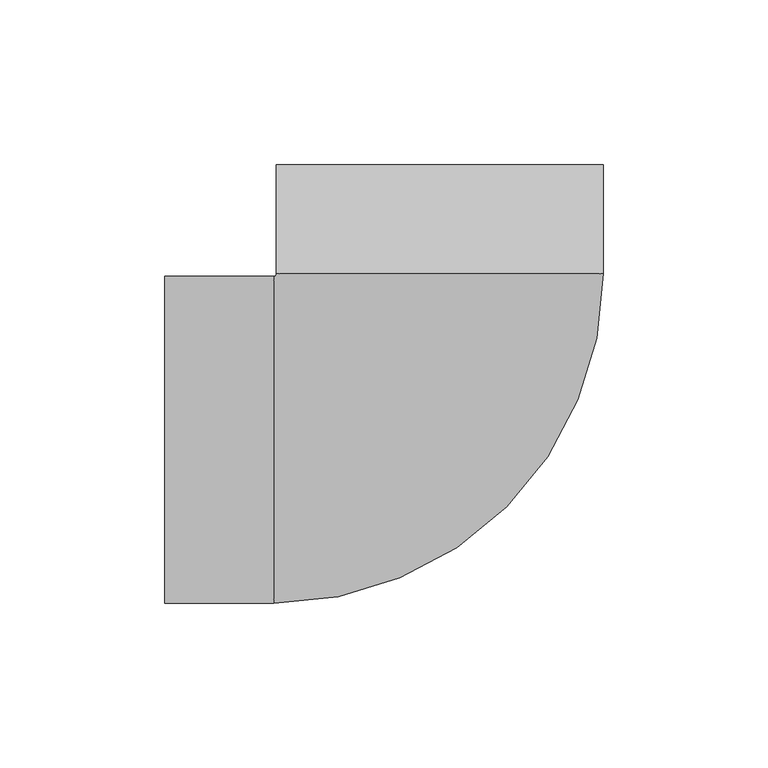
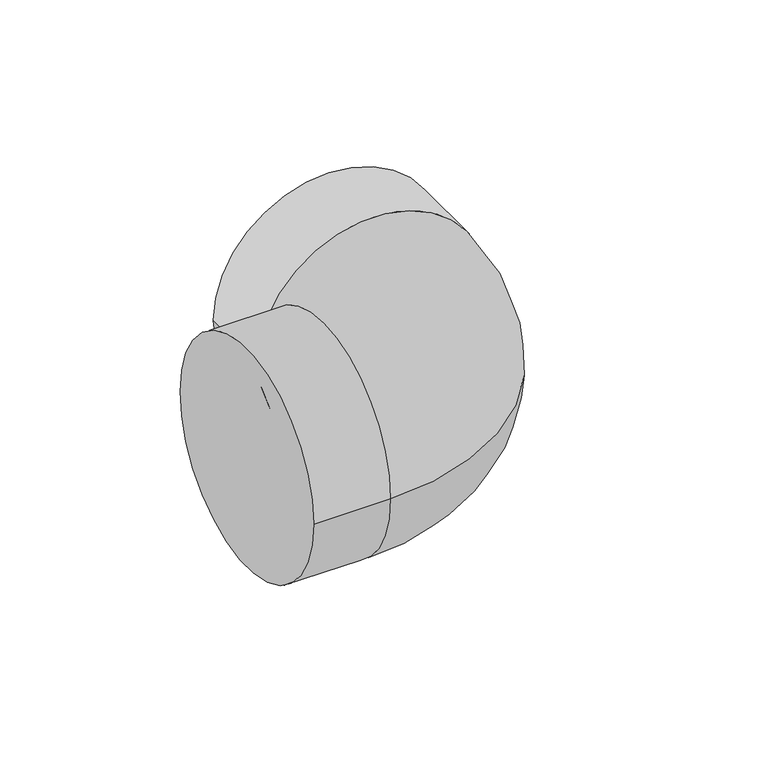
"""IFC4 building model written with IfcOpenShell, lengths in millimetres: pipe fitting geometry, NIRON RED termofusion codo : Estándar."""

from ifc_helpers import new_model, si_unit, point, frame, origin, place, context, project, spatial, circle_curve, ellipse_curve, trimmed, source, transform, mapped, element, save
from ifc_brep_helpers import plane_surface, cylinder_surface, revolved_surface, advanced_brep


def pipe_fitting_645065da(model_context):
    return source(origin(), model_context, "Body", "AdvancedBrep", [
        advanced_brep(
        [(-83.29375, -49.5, 0.0), (-83.29375, 49.5, 0.0), (-50.29375, -49.5, 0.0), (-50.29375, 49.5, 0.0), (-49.5, 50.29375, 0.0), (49.5, 50.29375, 0.0), (0.0, 50.29375, 49.5), (0.0, 50.29375, -49.5), (49.5, 83.29375, 0.0), (-49.5, 83.29375, 0.0)],
        [
            (0, 1, circle_curve(frame((-83.29375, 0.0, 0.0), z_axis=(-1.0, 0.0, 0.0), x_axis=(0.0, 1.0, 0.0)), 49.5)),
            (1, 0, circle_curve(frame((-83.29375, 0.0, 0.0), z_axis=(-1.0, 0.0, 0.0), x_axis=(0.0, 1.0, 0.0)), 49.5)),
            (0, 2),
            (2, 3, circle_curve(frame((-50.29375, 0.0, 0.0), z_axis=(-1.0, 0.0, 0.0), x_axis=(0.0, 1.0, 0.0)), 49.5)),
            (3, 1),
            (3, 2, circle_curve(frame((-50.29375, 0.0, 0.0), z_axis=(-1.0, 0.0, 0.0), x_axis=(0.0, 1.0, 0.0)), 49.5)),
            (4, 3, circle_curve(frame((-50.29375, 50.29375, 0.0), z_axis=(0.0, 0.0, -1.0), x_axis=(0.0, -1.0, 0.0)), 0.79375)),
            (2, 5, circle_curve(frame((-50.29375, 50.29375, 0.0), z_axis=(0.0, 0.0, 1.0), x_axis=(0.0, -1.0, 0.0)), 99.79375)),
            (5, 6, circle_curve(frame((0.0, 50.29375, 0.0), z_axis=(0.0, -1.0, 0.0), x_axis=(-1.0, 0.0, 0.0)), 49.5)),
            (6, 4, circle_curve(frame((0.0, 50.29375, 0.0), z_axis=(0.0, -1.0, 0.0), x_axis=(-1.0, 0.0, 0.0)), 49.5)),
            (4, 7, circle_curve(frame((0.0, 50.29375, 0.0), z_axis=(0.0, -1.0, 0.0), x_axis=(-1.0, 0.0, 0.0)), 49.5)),
            (7, 5, circle_curve(frame((0.0, 50.29375, 0.0), z_axis=(0.0, -1.0, 0.0), x_axis=(-1.0, 0.0, 0.0)), 49.5)),
            (8, 9, circle_curve(frame((0.0, 83.29375, 0.0), z_axis=(0.0, 1.0, 0.0), x_axis=(-1.0, 0.0, 0.0)), 49.5)),
            (9, 8, circle_curve(frame((0.0, 83.29375, 0.0), z_axis=(0.0, 1.0, 0.0), x_axis=(-1.0, 0.0, 0.0)), 49.5)),
            (9, 4),
            (5, 8),
        ],
        [
            plane_surface(frame((-83.29375, 0.0, 0.0), z_axis=(-1.0, 0.0, 0.0), x_axis=(0.0, 0.0, 1.0))),
            cylinder_surface(frame((-83.29375, 0.0, 0.0), z_axis=(-1.0, 0.0, 0.0), x_axis=(0.0, 1.0, 0.0)), 49.5),
            revolved_surface(trimmed(ellipse_curve(frame((-50.29375, 0.0, 0.0), z_axis=(-1.0, 0.0, 0.0), x_axis=(0.0, 1.0, 0.0)), 49.5, 49.5), [point((-50.29375, -49.5, 0.0))], [point((-50.29375, 49.5, 0.0))], True, "CARTESIAN"), (-50.29375, 50.29375, 0.0), (0.0, 0.0, 1.0)),
            revolved_surface(trimmed(ellipse_curve(frame((-50.29375, 0.0, 0.0), z_axis=(-1.0, 0.0, 0.0), x_axis=(0.0, 1.0, 0.0)), 49.5, 49.5), [point((-50.29375, 49.5, 0.0))], [point((-50.29375, -49.5, 0.0))], True, "CARTESIAN"), (-50.29375, 50.29375, 0.0), (0.0, 0.0, 1.0)),
            plane_surface(frame((0.0, 83.29375, 0.0), z_axis=(0.0, 1.0, 0.0), x_axis=(0.0, 0.0, 1.0))),
            cylinder_surface(frame((0.0, 50.29375, 0.0), z_axis=(0.0, -1.0, 0.0), x_axis=(-1.0, 0.0, 0.0)), 49.5),
        ],
        [
            (0, [[1, 2]]),
            (1, [[-1, 3, 4, 5]]),
            (1, [[-2, -5, 6, -3]]),
            (2, [[7, -4, 8, 9, 10]]),
            (3, [[-7, 11, 12, -8, -6]]),
            (4, [[13, 14]]),
            (5, [[-14, 15, -10, -9, 16]]),
            (5, [[-13, -16, -12, -11, -15]]),
        ],
    ),
    ])


if __name__ == "__main__":
    model = new_model("IFC4")
    model_context = context("Model", 3, world=origin())
    ifc_project = project(units=[si_unit("LENGTHUNIT", "METRE", prefix="MILLI")], contexts=[model_context])
    site = spatial("IfcSite", under=ifc_project)
    building = spatial("IfcBuilding", under=site)
    placement = place(None, origin())
    pipe_fitting_shape = pipe_fitting_645065da(model_context)
    element("IfcPipeFitting", 1, ObjectType="NIRON RED termofusion codo : Estándar", at=placement, inside=building, context=model_context, shape_type="MappedRepresentation", body=[
        mapped(pipe_fitting_shape, transform((0.0, 0.0, 0.0), x_axis=(1.0, 0.0, 0.0), y_axis=(0.0, 1.0, 0.0), z_axis=(0.0, 0.0, 1.0))),
    ])
    save(model, "model.ifc")
